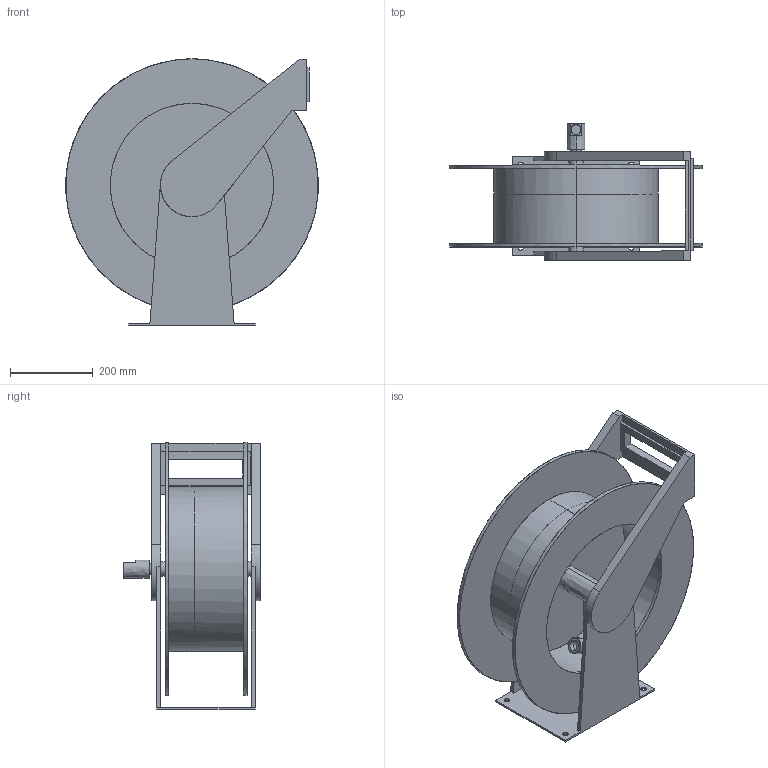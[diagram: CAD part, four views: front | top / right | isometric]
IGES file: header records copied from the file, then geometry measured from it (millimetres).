
Start section: Comment
Global section: file name: D83000 SW.igs; native system:  By UGS Corp.; preprocessor: XPlus GENERIC/IGES 3.0; author: Author; organization: Title; date: 20120802.154127; units: millimetre
Bounding box: 608.68 x 330.2 x 642.72 mm (x, y, z)
Surface area: 2056442.3 mm2 (no closed solid volume)
Topology: 0 solids, 0 shells, 97 faces, 490 edges, 490 vertices
Faces by surface type: bspline 97
